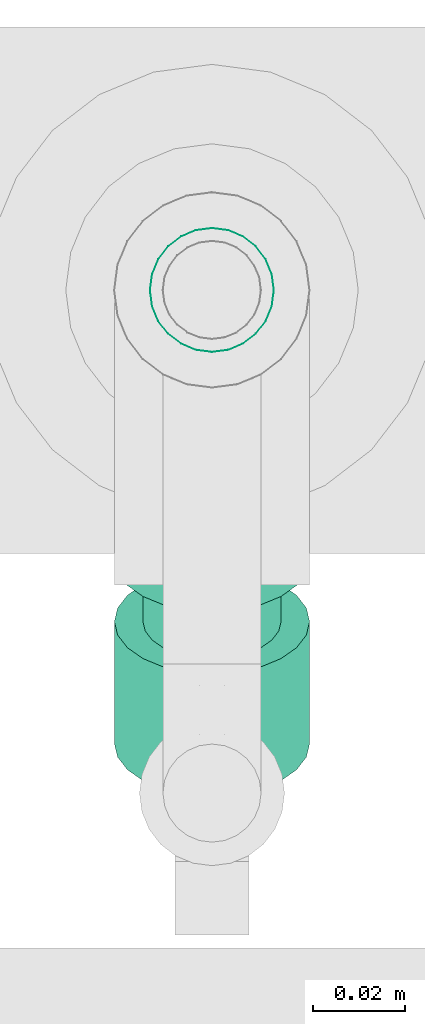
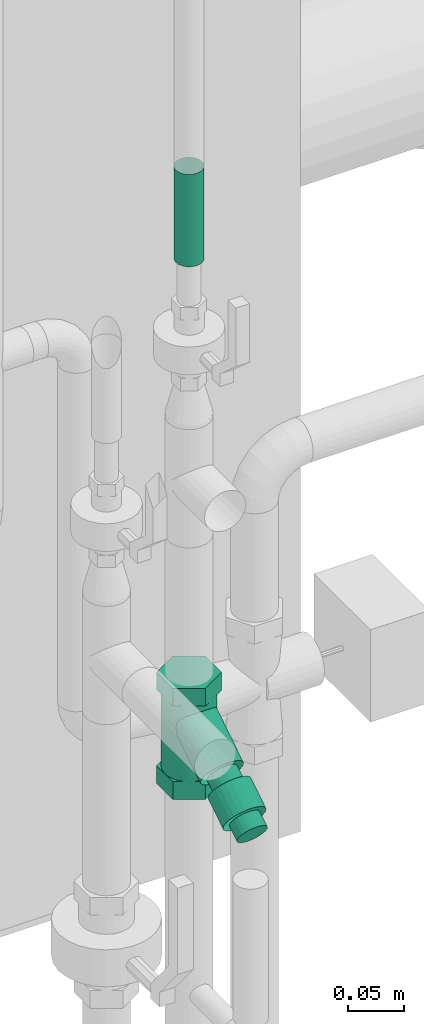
# One storey, part 108 of 374: 1 flow segment, 1 flow treatment device.
"""IFC2X3 building model written with IfcOpenShell, lengths in metres."""

import ifcopenshell
import ifcopenshell.guid

model = None  # the IFC model being written
_history = None  # IfcOwnerHistory: only IFC2X3 demands one
_inside = {}  # id of a spatial element -> (the spatial element, [elements in it])
_under = {}  # id of a project, library or spatial element -> (it, [spatial elements below it])
_declared = {}  # id of a project -> (the project, [libraries it declares])
_typed = {}  # id of a type object -> (the type object, [elements of that type])
_made_of = {}  # id of a material, layer set ... -> (it, [elements and type objects made of it])


def new_model(schema):
    """Start an empty IFC model of exactly this schema.

    Asked for "IFC4X3", IfcOpenShell would pick the latest addendum, in which some entities
    have other attributes; the version numbers below select the first issue.
    IFC2X3 requires an IfcOwnerHistory on every rooted entity: one is made here for all.
    """
    global model, _history
    if schema == "IFC4X3":
        model = ifcopenshell.file(schema_version=(4, 3, 0, 0))
    else:
        model = ifcopenshell.file(schema=schema)
    _inside.clear()
    _under.clear()
    _declared.clear()
    _typed.clear()
    _made_of.clear()
    _history = None
    if model.schema == "IFC2X3":
        org = make("IfcOrganization", Name="unknown")
        user = make(
            "IfcPersonAndOrganization",
            ThePerson=make("IfcPerson", FamilyName="unknown"),
            TheOrganization=org,
        )
        app = make(
            "IfcApplication",
            ApplicationDeveloper=org,
            Version="unknown",
            ApplicationFullName="unknown",
            ApplicationIdentifier="unknown",
        )
        _history = make(
            "IfcOwnerHistory",
            OwningUser=user,
            OwningApplication=app,
            ChangeAction="ADDED",
            CreationDate=0,
        )
    return model


def make(cls, **values):
    """One entity of the class cls with the attributes given. An attribute that is None is left unset."""
    return model.create_entity(
        cls, **{name: value for name, value in values.items() if value is not None}
    )


def rooted(cls, **values):
    """An entity with a GlobalId (a new one), such as an element, a storey or a relation."""
    return make(cls, GlobalId=ifcopenshell.guid.new(), OwnerHistory=_history, **values)


def si_unit(unit_type, name, prefix=None):
    """IfcSIUnit, for example si_unit("LENGTHUNIT", "METRE", prefix="MILLI")."""
    return make("IfcSIUnit", UnitType=unit_type, Prefix=prefix, Name=name)


def assignment(units):
    """IfcUnitAssignment: the units of a project."""
    return None if units is None else make("IfcUnitAssignment", Units=units)


def point(xyz):
    """IfcCartesianPoint."""
    return None if xyz is None else make("IfcCartesianPoint", Coordinates=xyz)


def direction(xyz):
    """IfcDirection."""
    return None if xyz is None else make("IfcDirection", DirectionRatios=xyz)


def frame(location, z_axis=None, x_axis=None):
    """IfcAxis2Placement3D, a coordinate frame: its origin and axes. An axis left out is left unset."""
    return make(
        "IfcAxis2Placement3D",
        Location=point(location),
        Axis=direction(z_axis),
        RefDirection=direction(x_axis),
    )


def origin():
    """The frame at (0, 0, 0) with its axes left unset."""
    return frame((0.0, 0.0, 0.0))


def place(relative_to, where):
    """IfcLocalPlacement: puts the frame where relative to a parent placement (None: the world)."""
    return make(
        "IfcLocalPlacement", PlacementRelTo=relative_to, RelativePlacement=where
    )


def context(
    kind, dimensions, precision=None, world=None, true_north=None, identifier=None
):
    """IfcGeometricRepresentationContext, for example the 3D "Model" context."""
    return make(
        "IfcGeometricRepresentationContext",
        ContextIdentifier=identifier,
        ContextType=kind,
        CoordinateSpaceDimension=dimensions,
        Precision=precision,
        WorldCoordinateSystem=world,
        TrueNorth=true_north,
    )


def subcontext(parent, identifier, kind, view, scale=None):
    """IfcGeometricRepresentationSubContext, for example "Body" below "Model"."""
    return make(
        "IfcGeometricRepresentationSubContext",
        ContextIdentifier=identifier,
        ContextType=kind,
        ParentContext=parent,
        TargetScale=scale,
        TargetView=view,
    )


def project(units=None, contexts=None):
    """IfcProject with its units and contexts."""
    return rooted(
        "IfcProject",
        Name="project",
        RepresentationContexts=contexts,
        UnitsInContext=assignment(units),
    )


def spatial(cls, under=None, at=None, **own):
    """A site, building, storey or space (cls), placed at a placement, below another one or the project."""
    s = rooted(cls, ObjectPlacement=at, **own)
    if under is not None:
        _under.setdefault(under.id(), (under, []))[1].append(s)
    return s


def faces_of(points, faces, orient=None, outer=None):
    """IfcFace entities. A face is a list of loops; a loop is a list of indices into points, from 0.

    orient and outer hold one flag for each loop. By default every Orientation is true, the
    first loop of a face is its IfcFaceOuterBound and the others are IfcFaceBound.
    """
    made = []
    for i, loops in enumerate(faces):
        bounds = []
        for j, loop in enumerate(loops):
            is_outer = j == 0 if outer is None else outer[i][j]
            bounds.append(
                make(
                    "IfcFaceOuterBound" if is_outer else "IfcFaceBound",
                    Bound=make("IfcPolyLoop", Polygon=[points[k] for k in loop]),
                    Orientation=True if orient is None else orient[i][j],
                )
            )
        made.append(make("IfcFace", Bounds=bounds))
    return made


def open_shell(faces, orient=None, outer=None):
    """The faces of one IfcOpenShell. surface_model builds it on its shared points."""
    return ("IfcOpenShell", faces, orient, outer)


def surface_model(cls, points, shells):
    """IfcFaceBasedSurfaceModel or IfcShellBasedSurfaceModel (cls): surfaces that need not close."""
    shared = [point(p) for p in points]
    made = [make(c, CfsFaces=faces_of(shared, fs, o, b)) for c, fs, o, b in shells]
    if cls == "IfcFaceBasedSurfaceModel":
        return make(cls, FbsmFaces=made)
    return make(cls, SbsmBoundary=made)


def shape(context_of_items, identifier, shape_type, items):
    """IfcShapeRepresentation: the items that make up one representation, for example the "Body"."""
    return make(
        "IfcShapeRepresentation",
        ContextOfItems=context_of_items,
        RepresentationIdentifier=identifier,
        RepresentationType=shape_type,
        Items=items,
    )


def source(mapping_origin, context_of_items, identifier, shape_type, items):
    """IfcRepresentationMap: a shape defined once, which mapped items show again and again."""
    return make(
        "IfcRepresentationMap",
        MappingOrigin=mapping_origin,
        MappedRepresentation=shape(context_of_items, identifier, shape_type, items),
    )


def transform(
    local_origin,
    x_axis=None,
    y_axis=None,
    z_axis=None,
    scale=None,
    scale2=None,
    scale3=None,
    uniform=True,
):
    """IfcCartesianTransformationOperator3D, or its non-uniform kind. x_axis, y_axis, z_axis: its Axis1, 2, 3."""
    if uniform:
        return make(
            "IfcCartesianTransformationOperator3D",
            Axis1=direction(x_axis),
            Axis2=direction(y_axis),
            LocalOrigin=point(local_origin),
            Scale=scale,
            Axis3=direction(z_axis),
        )
    return make(
        "IfcCartesianTransformationOperator3DnonUniform",
        Axis1=direction(x_axis),
        Axis2=direction(y_axis),
        LocalOrigin=point(local_origin),
        Scale=scale,
        Axis3=direction(z_axis),
        Scale2=scale2,
        Scale3=scale3,
    )


def mapped(mapping_source, mapping_target):
    """IfcMappedItem: shows the shape of a source again, moved by a transform."""
    return make(
        "IfcMappedItem", MappingSource=mapping_source, MappingTarget=mapping_target
    )


def made_of(thing, what):
    """Note that an element or type object is made of a material, layer set ...; save() writes the relation."""
    if what is not None:
        _made_of.setdefault(what.id(), (what, []))[1].append(thing)
    return thing


def element(
    cls,
    number,
    at=None,
    inside=None,
    cuts=None,
    type_object=None,
    material=None,
    context=None,
    identifier="Body",
    shape_type=None,
    held_by="IfcProductDefinitionShape",
    body=None,
    shapes=None,
    **own,
):
    """One element of the class cls, such as IfcWall. Its Tag is "e" and its number.

    at: its placement. inside: the storey or other place that contains it. cuts: it is an
    opening in that element (IfcRelVoidsElement). A single representation is given by context,
    identifier, shape_type and body (its items); several are given by shapes. held_by: the class
    of the entity that holds the representations. save() writes the other relations.
    """
    e = rooted(cls, Tag="e%d" % number, ObjectPlacement=at, **own)
    if body is not None:
        shapes = [shape(context, identifier, shape_type, body)]
    if shapes is not None:
        e.Representation = make(held_by, Representations=shapes)
    if inside is not None:
        _inside.setdefault(inside.id(), (inside, []))[1].append(e)
    if cuts is not None:
        rooted(
            "IfcRelVoidsElement", RelatingBuildingElement=cuts, RelatedOpeningElement=e
        )
    if type_object is not None:
        _typed.setdefault(type_object.id(), (type_object, []))[1].append(e)
    return made_of(e, material)


def aggregate(whole, parts):
    """IfcRelAggregates: a whole, such as a stair, and the parts it consists of."""
    return rooted("IfcRelAggregates", RelatingObject=whole, RelatedObjects=parts)


def save(model, path):
    """Write the relations noted so far, then the file.

    IfcRelAggregates (storeys below a building ...), IfcRelContainedInSpatialStructure (elements
    in a storey), IfcRelDefinesByType, IfcRelAssociatesMaterial and IfcRelDeclares: one each for
    every whole, place, type object, material and project.
    """
    for whole, parts in _under.values():
        aggregate(whole, parts)
    for where, things in _inside.values():
        rooted(
            "IfcRelContainedInSpatialStructure",
            RelatedElements=things,
            RelatingStructure=where,
        )
    for kind, things in _typed.values():
        rooted("IfcRelDefinesByType", RelatedObjects=things, RelatingType=kind)
    for what, things in _made_of.values():
        rooted("IfcRelAssociatesMaterial", RelatedObjects=things, RelatingMaterial=what)
    for by, libraries in _declared.values():
        rooted("IfcRelDeclares", RelatingContext=by, RelatedDefinitions=libraries)
    model.write(path)


model = new_model("IFC2X3")

# Units and contexts
model_context = context("Model", 3, precision=1e-05, world=origin(), true_north=direction((-0.4480736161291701, 0.8939966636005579)))
body_context = subcontext(model_context, "Body", "Model", "MODEL_VIEW")
ifc_project = project(units=[si_unit("LENGTHUNIT", "METRE"), si_unit("AREAUNIT", "SQUARE_METRE"), si_unit("VOLUMEUNIT", "CUBIC_METRE"), si_unit("PLANEANGLEUNIT", "RADIAN"), si_unit("THERMODYNAMICTEMPERATUREUNIT", "KELVIN"), si_unit("MASSUNIT", "GRAM", prefix="KILO"), si_unit("TIMEUNIT", "SECOND")], contexts=[model_context])

# Site, building, storey
site_placement = place(None, origin())
site = spatial("IfcSite", under=ifc_project, at=site_placement, Name="Site 1", CompositionType="ELEMENT")
building_placement = place(site_placement, origin())
building = spatial("IfcBuilding", under=site, at=building_placement, Name="Undefined", CompositionType="ELEMENT")
storey_placement = place(building_placement, origin())
storey = spatial("IfcBuildingStorey", under=building, at=storey_placement, Name="Rez de chauss\x8ee", CompositionType="ELEMENT", Elevation=0.0)

# Flow segment
shared_shape_1 = source(origin(), body_context, "Body", "SurfaceModel", [
    surface_model("IfcFaceBasedSurfaceModel", [(0.0, 0.0035111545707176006, 0.0), (0.0, 0.0, 0.0), (0.10000000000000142, 8.8817842e-16, 1.776356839e-15), (0.10000000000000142, 0.003511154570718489, -1.66533454e-16), (0.0, -0.003391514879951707, -0.0009087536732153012), (0.09999999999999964, -0.003391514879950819, -0.0009087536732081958), (0.0, -0.006432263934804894, -0.0026643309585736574), (0.09999999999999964, -0.006432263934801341, -0.002664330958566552), (0.0, -0.00891502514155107, -0.005147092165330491), (0.09999999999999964, -0.008915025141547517, -0.005147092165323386), (0.0, -0.010670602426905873, -0.008187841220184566), (0.09999999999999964, -0.01067060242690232, -0.00818784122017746), (0.0, -0.011579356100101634, -0.01157935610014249), (0.09999999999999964, -0.011579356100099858, -0.01157935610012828), (0.0, -0.011579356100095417, -0.015090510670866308), (0.09999999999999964, -0.011579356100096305, -0.015090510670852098), (0.0, -0.010670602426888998, -0.018482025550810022), (0.09999999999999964, -0.01067060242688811, -0.018482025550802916), (0.0, -0.008915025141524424, -0.021522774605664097), (0.09999999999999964, -0.008915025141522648, -0.02152277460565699), (0.0, -0.006432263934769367, -0.02400553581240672), (0.09999999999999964, -0.006432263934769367, -0.024005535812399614), (0.0, -0.0033915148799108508, -0.025761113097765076), (0.09999999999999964, -0.0033915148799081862, -0.02576111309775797), (0.0, 4.2632564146e-14, -0.026669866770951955), (0.10000000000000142, 1.776356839e-15, -0.026669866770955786), (0.0, 0.0035111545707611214, -0.026669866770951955), (0.09999999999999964, 0.0035111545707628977, -0.02666986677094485), (0.0, 0.006902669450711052, -0.02576111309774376), (0.09999999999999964, 0.0069026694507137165, -0.025761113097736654), (0.0, 0.00994341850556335, -0.024005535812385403), (0.09999999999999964, 0.009943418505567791, -0.024005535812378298), (0.0, 0.012426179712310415, -0.02152277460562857), (0.09999999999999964, 0.012426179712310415, -0.021522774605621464), (0.0, 0.014181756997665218, -0.018482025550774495), (0.09999999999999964, 0.014181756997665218, -0.018482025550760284), (0.0, 0.015090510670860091, -0.01509051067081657), (0.09999999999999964, 0.015090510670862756, -0.01509051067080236), (0.0, 0.015090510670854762, -0.011579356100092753), (0.09999999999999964, 0.01509051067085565, -0.011579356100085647), (0.0, 0.014181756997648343, -0.00818784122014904), (0.09999999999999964, 0.014181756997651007, -0.008187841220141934), (0.0, 0.012426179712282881, -0.005147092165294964), (0.09999999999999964, 0.012426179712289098, -0.005147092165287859), (0.0, 0.009943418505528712, -0.002664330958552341), (0.09999999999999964, 0.009943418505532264, -0.0026643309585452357), (0.0, 0.006902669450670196, -0.0009087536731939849), (0.09999999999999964, 0.006902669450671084, -0.0009087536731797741)], [open_shell([[[0, 1, 2, 3]], [[1, 4, 5, 2]], [[4, 6, 7, 5]], [[6, 8, 9, 7]], [[8, 10, 11, 9]], [[10, 12, 13, 11]], [[12, 14, 15, 13]], [[14, 16, 17, 15]], [[16, 18, 19, 17]], [[18, 20, 21, 19]], [[20, 22, 23, 21]], [[22, 24, 25, 23]], [[24, 26, 27, 25]], [[26, 28, 29, 27]], [[28, 30, 31, 29]], [[30, 32, 33, 31]], [[32, 34, 35, 33]], [[34, 36, 37, 35]], [[36, 38, 39, 37]], [[38, 40, 41, 39]], [[40, 42, 43, 41]], [[42, 44, 45, 43]], [[44, 46, 47, 45]], [[46, 0, 3, 47]]])]),
])
flow_segment_placement = place(storey_placement, origin())
element("IfcFlowSegment", 1, at=flow_segment_placement, inside=storey, Name="Tube acier d'après DIN 2448", ObjectType="Tube acier d'après DIN 2448", context=body_context, shape_type="MappedRepresentation", body=[
    mapped(shared_shape_1, transform((53.87055371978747, 10.9145559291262, 2.3491915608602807), x_axis=(0.0, 0.0, -1.0), y_axis=(0.13052619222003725, 0.9914448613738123, 0.0), z_axis=(0.9914448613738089, -0.13052619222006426, 0.0))),
])

# Flow treatment device
shared_shape_2 = source(origin(), body_context, "Body", "SurfaceModel", [
    surface_model("IfcFaceBasedSurfaceModel", [(0.0, 0.005534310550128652, 0.0), (0.0, 0.0, 0.0), (0.03197328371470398, -7.105427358e-15, 8.8817842e-16), (0.030656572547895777, 0.0055343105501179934, 0.0), (0.0, -0.00534573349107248, -0.0014323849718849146), (0.03583368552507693, -0.005345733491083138, -0.0014323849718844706), (0.0, -0.010138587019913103, -0.004199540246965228), (0.04197469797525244, -0.010138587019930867, -0.004199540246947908), (0.0, -0.01405193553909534, -0.008112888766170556), (0.049977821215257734, -0.01405193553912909, -0.008112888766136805), (0.0, -0.016819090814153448, -0.012905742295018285), (0.059297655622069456, -0.016819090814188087, -0.012905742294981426), (0.0, -0.018251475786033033, -0.018251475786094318), (0.06929906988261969, -0.018251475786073, -0.01825147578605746), (0.0, -0.0182514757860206, -0.02378578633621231), (0.06628881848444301, -0.018251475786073, -0.023785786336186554), (0.0, -0.01681909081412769, -0.029131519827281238), (0.06348371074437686, -0.016819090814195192, -0.029131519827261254), (0.0, -0.014051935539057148, -0.03392437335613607), (0.061074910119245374, -0.014051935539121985, -0.03392437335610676), (0.0, -0.010138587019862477, -0.037837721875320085), (0.05922657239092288, -0.010138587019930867, -0.037837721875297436), (0.0, -0.005345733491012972, -0.040604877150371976), (0.058064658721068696, -0.005345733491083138, -0.04060487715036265), (0.0, 6.4837024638e-14, -0.042037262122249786), (0.05766835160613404, -1.4210854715e-14, -0.04203726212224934), (0.0, 0.005534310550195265, -0.04203726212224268), (0.058064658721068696, 0.005534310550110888, -0.04203726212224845), (0.0, 0.010880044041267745, -0.04060487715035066), (0.05922657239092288, 0.01088004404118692, -0.04060487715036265), (0.0, 0.01567289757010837, -0.03783772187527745), (0.061074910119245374, 0.01567289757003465, -0.03783772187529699), (0.0, 0.019586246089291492, -0.033924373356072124), (0.06348371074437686, 0.019586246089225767, -0.03392437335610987), (0.0, 0.0223534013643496, -0.029131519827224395), (0.06628881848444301, 0.02235340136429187, -0.02913151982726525), (0.0, 0.02378578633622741, -0.023785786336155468), (0.06929906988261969, 0.023785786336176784, -0.02378578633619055), (0.0, 0.023785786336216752, -0.01825147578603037), (0.059297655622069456, 0.023785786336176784, -0.018251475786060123), (0.0, 0.022353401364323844, -0.012905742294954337), (0.049977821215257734, 0.02235340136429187, -0.012905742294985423), (0.0, 0.019586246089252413, -0.008112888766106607), (0.04197469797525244, 0.019586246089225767, -0.008112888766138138), (0.0, 0.015672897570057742, -0.004199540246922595), (0.03583368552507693, 0.01567289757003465, -0.0041995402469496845), (0.0, 0.010880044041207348, -0.0014323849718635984), (0.03197328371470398, 0.01088004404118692, -0.0014323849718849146), (0.10083405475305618, -0.02497362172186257, -0.04019831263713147), (0.07648744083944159, -0.026998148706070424, -0.0555761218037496), (0.06622501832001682, -0.024895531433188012, -0.039605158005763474), (0.0905716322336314, -0.02287100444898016, -0.024227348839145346), (0.11300736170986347, 0.0008247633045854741, -0.03577256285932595), (0.1027449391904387, 0.0029273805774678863, -0.019801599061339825), (0.10083405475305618, 0.024598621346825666, -0.04672462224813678), (0.0905716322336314, 0.02670123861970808, -0.030753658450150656), (0.07648744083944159, 0.022574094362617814, -0.06210243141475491), (0.06622501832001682, 0.024676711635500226, -0.046131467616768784), (0.0643141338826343, -0.0032242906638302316, -0.06652818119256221), (0.05405171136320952, -0.0011216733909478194, -0.05055721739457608), (0.07839832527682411, 0.0256889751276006, -0.038442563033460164), (0.07294118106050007, 0.024390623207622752, -0.041778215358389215), (0.028990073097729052, 0.03339554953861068, 0.026620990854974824), (0.03444721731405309, 0.03469390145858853, 0.029956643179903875), (0.06785593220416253, 0.021491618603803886, -0.044664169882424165), (0.02390482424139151, 0.030496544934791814, 0.023735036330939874), (0.06348913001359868, 0.017189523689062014, -0.046903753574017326), (0.019538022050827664, 0.026194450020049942, 0.021495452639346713), (0.06013836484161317, 0.011777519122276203, -0.04834434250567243), (0.01618725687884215, 0.02078244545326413, 0.020054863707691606), (0.05803198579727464, 0.0056244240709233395, -0.04888776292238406), (0.014080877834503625, 0.014629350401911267, 0.01951144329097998), (0.057313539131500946, -0.0008504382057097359, -0.04849698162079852), (0.013362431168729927, 0.008154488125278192, 0.01990222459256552), (0.05803198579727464, -0.0072058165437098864, -0.04719862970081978), (0.014080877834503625, 0.0017991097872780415, 0.021200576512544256), (0.06013836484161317, -0.013008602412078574, -0.045081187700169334), (0.01618725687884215, -0.004003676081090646, 0.023318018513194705), (0.06348913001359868, -0.017863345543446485, -0.042288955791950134), (0.019538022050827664, -0.008858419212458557, 0.026110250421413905), (0.06785593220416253, -0.02143920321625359, -0.03901221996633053), (0.02390482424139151, -0.01243427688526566, 0.02938698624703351), (0.07294118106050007, -0.02349248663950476, -0.03547428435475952), (0.028990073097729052, -0.014487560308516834, 0.03292492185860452), (0.07839832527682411, -0.023883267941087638, -0.031916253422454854), (0.03444721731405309, -0.01487834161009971, 0.036482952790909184), (0.08385546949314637, -0.02258491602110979, -0.028580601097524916), (0.039904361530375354, -0.013579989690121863, 0.03981860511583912), (0.08894071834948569, -0.01968591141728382, -0.025694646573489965), (0.044989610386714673, -0.010680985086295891, 0.04270455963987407), (0.09330752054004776, -0.015383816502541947, -0.023455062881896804), (0.04935641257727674, -0.006378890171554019, 0.044944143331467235), (0.09665828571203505, -0.009971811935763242, -0.022014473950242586), (0.052707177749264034, -0.0009668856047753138, 0.04638473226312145), (0.0987646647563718, -0.0038187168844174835, -0.02147105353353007), (0.05481355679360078, 0.0051862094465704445, 0.04692815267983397), (0.0994831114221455, 0.0026561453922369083, -0.02186183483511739), (0.05553200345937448, 0.011661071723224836, 0.04653737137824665), (0.0987646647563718, 0.009011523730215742, -0.023160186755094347), (0.05481355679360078, 0.01801645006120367, 0.04523901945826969), (0.09665828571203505, 0.014814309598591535, -0.025277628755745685), (0.052707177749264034, 0.023819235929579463, 0.043121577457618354), (0.09330752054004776, 0.019669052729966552, -0.028069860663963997), (0.04935641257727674, 0.02867397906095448, 0.04032934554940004), (0.08894071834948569, 0.023244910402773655, -0.0313465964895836), (0.044989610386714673, 0.03224983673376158, 0.03705260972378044), (0.08385546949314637, 0.025298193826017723, -0.03488453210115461), (0.039904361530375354, 0.03430312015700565, 0.03351467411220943), (0.046620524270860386, -0.013866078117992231, 0.04417185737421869), (0.022273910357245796, -0.015890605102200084, 0.028794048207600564), (0.012011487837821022, -0.013787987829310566, 0.04476501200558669), (0.03635810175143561, -0.011763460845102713, 0.06014282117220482), (0.05879383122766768, 0.011932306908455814, 0.048597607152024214), (0.04853140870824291, 0.014034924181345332, 0.06456857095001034), (0.046620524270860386, 0.03570616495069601, 0.03764554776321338), (0.03635810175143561, 0.037808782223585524, 0.05361651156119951), (0.022273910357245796, 0.033681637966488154, 0.022267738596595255), (0.012011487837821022, 0.03578425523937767, 0.03823870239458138), (0.010100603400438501, 0.007883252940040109, 0.017841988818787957), (-0.00016181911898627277, 0.009985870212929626, 0.033812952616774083), (-1.776356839e-15, 0.017638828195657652, -0.022976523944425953), (0.0, 0.016625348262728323, -0.02675888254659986), (-0.016000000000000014, 0.016625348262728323, -0.02675888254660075), (-0.01600000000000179, 0.017638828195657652, -0.022976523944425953), (-1.776356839e-15, 0.014667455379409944, -0.030150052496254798), (-0.01600000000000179, 0.014667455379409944, -0.030150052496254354), (-1.776356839e-15, 0.01189857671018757, -0.03291893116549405), (-0.01600000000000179, 0.01189857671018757, -0.03291893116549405), (0.0, 0.008507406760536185, -0.03487682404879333), (-0.01600000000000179, 0.00850740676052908, -0.034876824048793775), (0.0, 0.00472504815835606, -0.0358903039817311), (-0.016000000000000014, 0.00472504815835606, -0.0358903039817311), (-1.776356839e-15, 0.0008092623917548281, -0.0358903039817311), (-0.01600000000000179, 0.0008092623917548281, -0.0358903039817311), (0.0, -0.0029730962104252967, -0.034876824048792), (-0.016000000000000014, -0.0029730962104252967, -0.034876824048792), (0.0, -0.006364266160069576, -0.03291893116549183), (-0.01600000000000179, -0.0063642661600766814, -0.03291893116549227), (-1.776356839e-15, -0.009133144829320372, -0.03015005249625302), (-0.01600000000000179, -0.009133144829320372, -0.03015005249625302), (-1.776356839e-15, -0.01109103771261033, -0.02675888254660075), (-0.01600000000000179, -0.01109103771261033, -0.026758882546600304), (0.0, -0.012104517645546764, -0.0229765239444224), (-0.016000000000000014, -0.012104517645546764, -0.02297652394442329), (-1.776356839e-15, -0.012104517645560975, -0.019060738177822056), (-0.01600000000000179, -0.012104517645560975, -0.019060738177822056), (-1.776356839e-15, -0.01109103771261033, -0.01527837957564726), (-0.01600000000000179, -0.01109103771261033, -0.01527837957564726), (0.0, -0.009133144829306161, -0.011887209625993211), (-0.016000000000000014, -0.009133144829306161, -0.0118872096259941), (0.0, -0.006364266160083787, -0.009118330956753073), (-0.01600000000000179, -0.0063642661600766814, -0.009118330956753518), (-1.776356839e-15, -0.0029730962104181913, -0.007160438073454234), (-0.01600000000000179, -0.0029730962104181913, -0.007160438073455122), (-1.776356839e-15, 0.0008092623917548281, -0.0061469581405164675), (-0.01600000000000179, 0.0008092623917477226, -0.006146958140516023), (0.0, 0.00472504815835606, -0.006146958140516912), (-0.01600000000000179, 0.004725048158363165, -0.006146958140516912), (-1.776356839e-15, 0.008507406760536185, -0.007160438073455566), (-0.01600000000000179, 0.00850740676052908, -0.007160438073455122), (-1.776356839e-15, 0.01189857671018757, -0.009118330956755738), (-0.01600000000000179, 0.01189857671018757, -0.009118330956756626), (0.0, 0.014667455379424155, -0.0118872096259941), (-0.01600000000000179, 0.01466745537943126, -0.011887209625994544), (0.0, 0.016625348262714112, -0.01527837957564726), (-0.016000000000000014, 0.016625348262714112, -0.015278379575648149), (-1.776356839e-15, 0.017638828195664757, -0.01906073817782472), (-0.01600000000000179, 0.017638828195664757, -0.01906073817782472), (-1.776356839e-15, 0.0027671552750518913, -0.02101863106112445), (-0.01600000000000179, 0.0027671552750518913, -0.02101863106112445), (-0.01600000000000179, 0.023785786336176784, -0.02378578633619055), (-0.01600000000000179, 0.02235340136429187, -0.029131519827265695), (-0.04742756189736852, 0.02235340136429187, -0.029131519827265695), (-0.04742756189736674, 0.02378578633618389, -0.023785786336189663), (-0.01600000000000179, 0.019586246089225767, -0.03392437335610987), (-0.04742756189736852, 0.019586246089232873, -0.03392437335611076), (-0.01600000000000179, 0.015672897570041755, -0.037837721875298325), (-0.04742756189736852, 0.01567289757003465, -0.037837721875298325), (-0.01600000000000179, 0.01088004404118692, -0.04060487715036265), (-0.04742756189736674, 0.01088004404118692, -0.04060487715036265), (-0.01600000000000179, 0.0055343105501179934, -0.04203726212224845), (-0.04742756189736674, 0.005534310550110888, -0.042037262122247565), (-0.01600000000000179, -7.105427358e-15, -0.04203726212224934), (-0.04742756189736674, -7.105427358e-15, -0.04203726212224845), (-0.01600000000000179, -0.005345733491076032, -0.04060487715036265), (-0.04742756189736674, -0.005345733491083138, -0.04060487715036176), (-0.01600000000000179, -0.010138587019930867, -0.037837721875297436), (-0.04742756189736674, -0.010138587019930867, -0.037837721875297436), (-0.01600000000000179, -0.01405193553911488, -0.033924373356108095), (-0.04742756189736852, -0.014051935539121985, -0.033924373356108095), (-0.01600000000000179, -0.016819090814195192, -0.029131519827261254), (-0.04742756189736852, -0.016819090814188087, -0.029131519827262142), (-0.01600000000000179, -0.018251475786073, -0.023785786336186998), (-0.04742756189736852, -0.018251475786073, -0.023785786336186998), (-0.01600000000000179, -0.018251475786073, -0.01825147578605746), (-0.04742756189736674, -0.018251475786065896, -0.01825147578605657), (-0.016000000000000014, -0.01681909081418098, -0.01290574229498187), (-0.04742756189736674, -0.016819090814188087, -0.012905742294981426), (-0.01600000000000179, -0.014051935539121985, -0.008112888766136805), (-0.04742756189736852, -0.01405193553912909, -0.00811288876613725), (-0.01600000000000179, -0.010138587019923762, -0.0041995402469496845), (-0.04742756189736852, -0.010138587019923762, -0.004199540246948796), (-0.01600000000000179, -0.005345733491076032, -0.0014323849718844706), (-0.04742756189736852, -0.005345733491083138, -0.0014323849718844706), (-0.015999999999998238, 0.0, 0.0), (-0.04742756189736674, -7.105427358e-15, 1.33226763e-15), (-0.01600000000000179, 0.005534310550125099, -4.4408921e-16), (-0.04742756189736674, 0.005534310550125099, 4.4408921e-16), (-0.01600000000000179, 0.01088004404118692, -0.0014323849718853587), (-0.04742756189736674, 0.01088004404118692, -0.0014323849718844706), (-0.01600000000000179, 0.015672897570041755, -0.0041995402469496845), (-0.04742756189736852, 0.01567289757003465, -0.0041995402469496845), (-0.01600000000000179, 0.019586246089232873, -0.008112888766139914), (-0.04742756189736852, 0.019586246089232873, -0.008112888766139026), (-0.01600000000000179, 0.022353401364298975, -0.012905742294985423), (-0.04742756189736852, 0.02235340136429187, -0.012905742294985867), (-0.016000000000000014, 0.02378578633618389, -0.018251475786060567), (-0.04742756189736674, 0.023785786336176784, -0.018251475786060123), (-0.04742756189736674, 0.017638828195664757, -0.022976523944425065), (-0.04742756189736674, 0.016625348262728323, -0.02675888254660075), (-0.06342756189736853, 0.016625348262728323, -0.026758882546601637), (-0.06342756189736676, 0.017638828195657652, -0.022976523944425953), (-0.04742756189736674, 0.014667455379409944, -0.030150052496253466), (-0.06342756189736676, 0.014667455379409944, -0.030150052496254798), (-0.04742756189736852, 0.01189857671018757, -0.03291893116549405), (-0.06342756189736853, 0.01189857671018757, -0.03291893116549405), (-0.04742756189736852, 0.008507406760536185, -0.03487682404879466), (-0.06342756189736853, 0.00850740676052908, -0.03487682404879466), (-0.04742756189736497, 0.00472504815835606, -0.0358903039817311), (-0.06342756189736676, 0.00472504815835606, -0.035890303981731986), (-0.04742756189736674, 0.0008092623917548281, -0.0358903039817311), (-0.06342756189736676, 0.0008092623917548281, -0.0358903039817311), (-0.04742756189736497, -0.0029730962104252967, -0.034876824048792), (-0.06342756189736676, -0.0029730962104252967, -0.03487682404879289), (-0.04742756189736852, -0.006364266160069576, -0.03291893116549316), (-0.06342756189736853, -0.0063642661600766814, -0.03291893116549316), (-0.04742756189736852, -0.009133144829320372, -0.03015005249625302), (-0.06342756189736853, -0.009133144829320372, -0.03015005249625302), (-0.04742756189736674, -0.01109103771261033, -0.026758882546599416), (-0.06342756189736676, -0.01109103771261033, -0.02675888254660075), (-0.04742756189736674, -0.012104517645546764, -0.02297652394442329), (-0.06342756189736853, -0.012104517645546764, -0.022976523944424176), (-0.04742756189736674, -0.01210451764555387, -0.019060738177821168), (-0.06342756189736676, -0.012104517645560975, -0.019060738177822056), (-0.04742756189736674, -0.01109103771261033, -0.015278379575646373), (-0.06342756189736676, -0.01109103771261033, -0.015278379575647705), (-0.04742756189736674, -0.009133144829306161, -0.011887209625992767), (-0.06342756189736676, -0.009133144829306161, -0.011887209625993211), (-0.04742756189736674, -0.006364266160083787, -0.009118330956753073), (-0.06342756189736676, -0.0063642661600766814, -0.009118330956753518), (-0.04742756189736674, -0.0029730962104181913, -0.007160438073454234), (-0.06342756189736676, -0.0029730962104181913, -0.007160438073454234), (-0.04742756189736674, 0.0008092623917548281, -0.006146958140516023), (-0.06342756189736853, 0.0008092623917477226, -0.0061469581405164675), (-0.04742756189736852, 0.00472504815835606, -0.006146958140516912), (-0.06342756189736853, 0.004725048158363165, -0.006146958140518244), (-0.04742756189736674, 0.008507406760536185, -0.007160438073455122), (-0.06342756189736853, 0.00850740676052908, -0.007160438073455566), (-0.04742756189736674, 0.01189857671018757, -0.009118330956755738), (-0.06342756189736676, 0.01189857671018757, -0.009118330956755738), (-0.04742756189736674, 0.014667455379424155, -0.0118872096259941), (-0.06342756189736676, 0.01466745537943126, -0.011887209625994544), (-0.04742756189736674, 0.016625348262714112, -0.015278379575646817), (-0.06342756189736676, 0.016625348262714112, -0.01527837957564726), (-0.04742756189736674, 0.017638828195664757, -0.019060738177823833), (-0.06342756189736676, 0.017638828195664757, -0.019060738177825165), (-0.04742756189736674, 0.0027671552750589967, -0.02101863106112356), (-0.06342756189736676, 0.0027671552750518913, -0.02101863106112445)], [open_shell([[[0, 1, 2, 3]], [[1, 4, 5, 2]], [[4, 6, 7, 5]], [[6, 8, 9, 7]], [[8, 10, 11, 9]], [[10, 12, 13, 11]], [[12, 14, 15, 13]], [[14, 16, 17, 15]], [[16, 18, 19, 17]], [[18, 20, 21, 19]], [[20, 22, 23, 21]], [[22, 24, 25, 23]], [[24, 26, 27, 25]], [[26, 28, 29, 27]], [[28, 30, 31, 29]], [[30, 32, 33, 31]], [[32, 34, 35, 33]], [[34, 36, 37, 35]], [[36, 38, 39, 37]], [[38, 40, 41, 39]], [[40, 42, 43, 41]], [[42, 44, 45, 43]], [[44, 46, 47, 45]], [[46, 0, 3, 47]], [[48, 49, 50, 51]], [[52, 48, 51, 53]], [[54, 52, 53, 55]], [[56, 54, 55, 57]], [[58, 56, 57, 59]], [[49, 58, 59, 50]], [[49, 48, 52]], [[49, 52, 54]], [[49, 54, 56]], [[49, 56, 58]], [[50, 53, 51]], [[50, 55, 53]], [[50, 57, 55]], [[50, 59, 57]], [[60, 61, 62, 63]], [[61, 64, 65, 62]], [[64, 66, 67, 65]], [[66, 68, 69, 67]], [[68, 70, 71, 69]], [[70, 72, 73, 71]], [[72, 74, 75, 73]], [[74, 76, 77, 75]], [[76, 78, 79, 77]], [[78, 80, 81, 79]], [[80, 82, 83, 81]], [[82, 84, 85, 83]], [[84, 86, 87, 85]], [[86, 88, 89, 87]], [[88, 90, 91, 89]], [[90, 92, 93, 91]], [[92, 94, 95, 93]], [[94, 96, 97, 95]], [[96, 98, 99, 97]], [[98, 100, 101, 99]], [[100, 102, 103, 101]], [[102, 104, 105, 103]], [[104, 106, 107, 105]], [[106, 60, 63, 107]], [[108, 109, 110, 111]], [[112, 108, 111, 113]], [[114, 112, 113, 115]], [[116, 114, 115, 117]], [[118, 116, 117, 119]], [[109, 118, 119, 110]], [[109, 108, 112]], [[109, 112, 114]], [[109, 114, 116]], [[109, 116, 118]], [[110, 113, 111]], [[110, 115, 113]], [[110, 117, 115]], [[110, 119, 117]], [[120, 121, 122, 123]], [[121, 124, 125, 122]], [[124, 126, 127, 125]], [[126, 128, 129, 127]], [[128, 130, 131, 129]], [[130, 132, 133, 131]], [[132, 134, 135, 133]], [[134, 136, 137, 135]], [[136, 138, 139, 137]], [[138, 140, 141, 139]], [[140, 142, 143, 141]], [[142, 144, 145, 143]], [[144, 146, 147, 145]], [[146, 148, 149, 147]], [[148, 150, 151, 149]], [[150, 152, 153, 151]], [[152, 154, 155, 153]], [[154, 156, 157, 155]], [[156, 158, 159, 157]], [[158, 160, 161, 159]], [[160, 162, 163, 161]], [[162, 164, 165, 163]], [[164, 166, 167, 165]], [[166, 120, 123, 167]], [[168, 121, 120]], [[168, 124, 121]], [[168, 126, 124]], [[168, 128, 126]], [[168, 130, 128]], [[168, 132, 130]], [[168, 134, 132]], [[168, 136, 134]], [[168, 138, 136]], [[168, 140, 138]], [[168, 142, 140]], [[168, 144, 142]], [[168, 146, 144]], [[168, 148, 146]], [[168, 150, 148]], [[168, 152, 150]], [[168, 154, 152]], [[168, 156, 154]], [[168, 158, 156]], [[168, 160, 158]], [[168, 162, 160]], [[168, 164, 162]], [[168, 166, 164]], [[168, 120, 166]], [[169, 167, 123]], [[169, 165, 167]], [[169, 163, 165]], [[169, 161, 163]], [[169, 159, 161]], [[169, 157, 159]], [[169, 155, 157]], [[169, 153, 155]], [[169, 151, 153]], [[169, 149, 151]], [[169, 147, 149]], [[169, 145, 147]], [[169, 143, 145]], [[169, 141, 143]], [[169, 139, 141]], [[169, 137, 139]], [[169, 135, 137]], [[169, 133, 135]], [[169, 131, 133]], [[169, 129, 131]], [[169, 127, 129]], [[169, 125, 127]], [[169, 122, 125]], [[169, 123, 122]], [[170, 171, 172, 173]], [[171, 174, 175, 172]], [[174, 176, 177, 175]], [[176, 178, 179, 177]], [[178, 180, 181, 179]], [[180, 182, 183, 181]], [[182, 184, 185, 183]], [[184, 186, 187, 185]], [[186, 188, 189, 187]], [[188, 190, 191, 189]], [[190, 192, 193, 191]], [[192, 194, 195, 193]], [[194, 196, 197, 195]], [[196, 198, 199, 197]], [[198, 200, 201, 199]], [[200, 202, 203, 201]], [[202, 204, 205, 203]], [[204, 206, 207, 205]], [[206, 208, 209, 207]], [[208, 210, 211, 209]], [[210, 212, 213, 211]], [[212, 214, 215, 213]], [[214, 216, 217, 215]], [[216, 170, 173, 217]], [[218, 219, 220, 221]], [[219, 222, 223, 220]], [[222, 224, 225, 223]], [[224, 226, 227, 225]], [[226, 228, 229, 227]], [[228, 230, 231, 229]], [[230, 232, 233, 231]], [[232, 234, 235, 233]], [[234, 236, 237, 235]], [[236, 238, 239, 237]], [[238, 240, 241, 239]], [[240, 242, 243, 241]], [[242, 244, 245, 243]], [[244, 246, 247, 245]], [[246, 248, 249, 247]], [[248, 250, 251, 249]], [[250, 252, 253, 251]], [[252, 254, 255, 253]], [[254, 256, 257, 255]], [[256, 258, 259, 257]], [[258, 260, 261, 259]], [[260, 262, 263, 261]], [[262, 264, 265, 263]], [[264, 218, 221, 265]], [[266, 219, 218]], [[266, 222, 219]], [[266, 224, 222]], [[266, 226, 224]], [[266, 228, 226]], [[266, 230, 228]], [[266, 232, 230]], [[266, 234, 232]], [[266, 236, 234]], [[266, 238, 236]], [[266, 240, 238]], [[266, 242, 240]], [[266, 244, 242]], [[266, 246, 244]], [[266, 248, 246]], [[266, 250, 248]], [[266, 252, 250]], [[266, 254, 252]], [[266, 256, 254]], [[266, 258, 256]], [[266, 260, 258]], [[266, 262, 260]], [[266, 264, 262]], [[266, 218, 264]], [[267, 265, 221]], [[267, 263, 265]], [[267, 261, 263]], [[267, 259, 261]], [[267, 257, 259]], [[267, 255, 257]], [[267, 253, 255]], [[267, 251, 253]], [[267, 249, 251]], [[267, 247, 249]], [[267, 245, 247]], [[267, 243, 245]], [[267, 241, 243]], [[267, 239, 241]], [[267, 237, 239]], [[267, 235, 237]], [[267, 233, 235]], [[267, 231, 233]], [[267, 229, 231]], [[267, 227, 229]], [[267, 225, 227]], [[267, 223, 225]], [[267, 220, 223]], [[267, 221, 220]]])]),
])
flow_treatment_device_placement = place(storey_placement, origin())
element("IfcFlowTreatmentDevice", 2, at=flow_treatment_device_placement, inside=storey, Name="Filtre en Y", ObjectType="Filtre en Y", context=body_context, shape_type="MappedRepresentation", body=[
    mapped(shared_shape_2, transform((53.85207505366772, 10.87059342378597, 1.7103331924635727), x_axis=(0.0, 0.8433914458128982, 0.5372996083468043), y_axis=(0.9914448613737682, 0.07013167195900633, -0.11008467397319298), z_axis=(-0.1305261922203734, 0.5327029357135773, -0.8361761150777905))),
])

save(model, "model.ifc")
